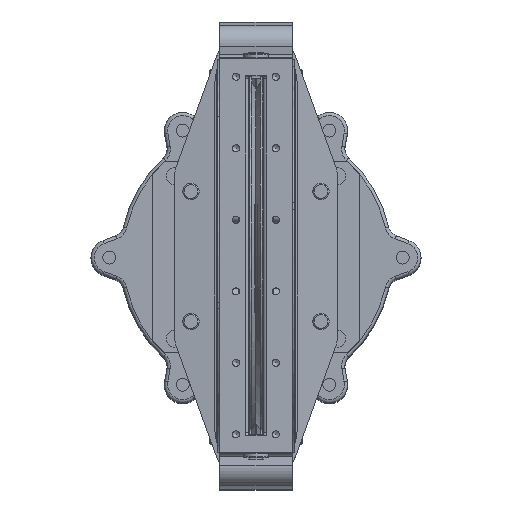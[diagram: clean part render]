
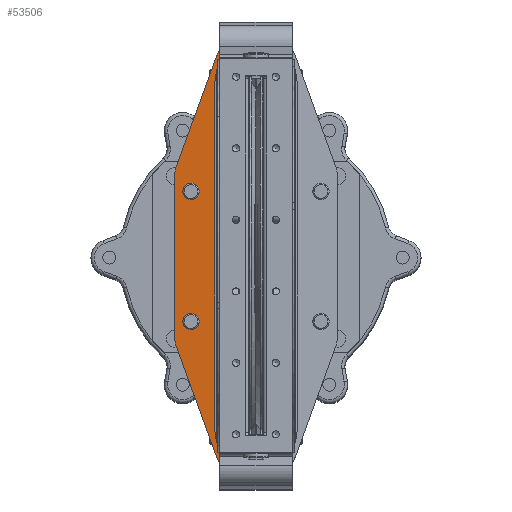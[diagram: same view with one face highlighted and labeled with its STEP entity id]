
A CAD part, top view. The second image highlights one B-rep face of the part: STEP entity #53506.
In plain terms, the highlighted planar face has unit normal (-0.07, 0, 0.998).
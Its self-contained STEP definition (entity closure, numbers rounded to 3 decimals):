
#854=B_SPLINE_CURVE_WITH_KNOTS('',3,(#89344,#89345,#89346,#89347,#89348,
#89349),.UNSPECIFIED.,.F.,.F.,(4,2,4),(-11.533,-11.508,
-11.478),.UNSPECIFIED.);
#855=B_SPLINE_CURVE_WITH_KNOTS('',3,(#89357,#89358,#89359,#89360,#89361,
#89362),.UNSPECIFIED.,.F.,.F.,(4,2,4),(27.716,27.741,
27.771),.UNSPECIFIED.);
#1640=ELLIPSE('',#56391,10.024,10.);
#1641=ELLIPSE('',#56392,10.024,10.);
#1644=ELLIPSE('',#56465,10.024,10.);
#1645=ELLIPSE('',#56466,10.024,10.);
#1652=ELLIPSE('',#58244,25.061,25.);
#1653=ELLIPSE('',#58247,25.061,25.);
#1658=ELLIPSE('',#58271,25.061,25.);
#1659=ELLIPSE('',#58274,25.061,25.);
#1660=ELLIPSE('',#58280,48.117,48.);
#1661=ELLIPSE('',#58281,48.117,48.);
#3087=FACE_BOUND('',#15275,.T.);
#3088=FACE_BOUND('',#15276,.T.);
#4527=LINE('',#88814,#7517);
#4528=LINE('',#88819,#7518);
#4553=LINE('',#88932,#7543);
#4595=LINE('',#89030,#7585);
#4597=LINE('',#89038,#7587);
#4600=LINE('',#89354,#7590);
#7517=VECTOR('',#68779,1.);
#7518=VECTOR('',#68784,1.);
#7543=VECTOR('',#68843,1.);
#7585=VECTOR('',#68939,1.);
#7587=VECTOR('',#68949,1.);
#7590=VECTOR('',#68960,1.);
#9862=PLANE('',#58279);
#11707=FACE_OUTER_BOUND('',#15274,.T.);
#15274=EDGE_LOOP('',(#41418,#41419,#41420,#41421,#41422,#41423,#41424,#41425,
#41426,#41427,#41428,#41429,#41430,#41431));
#15275=EDGE_LOOP('',(#41432,#41433));
#15276=EDGE_LOOP('',(#41434,#41435));
#22525=VERTEX_POINT('',#82713);
#22526=VERTEX_POINT('',#82715);
#22583=VERTEX_POINT('',#82949);
#22584=VERTEX_POINT('',#82951);
#24119=VERTEX_POINT('',#88811);
#24120=VERTEX_POINT('',#88813);
#24121=VERTEX_POINT('',#88817);
#24122=VERTEX_POINT('',#88818);
#24151=VERTEX_POINT('',#88925);
#24152=VERTEX_POINT('',#88927);
#24153=VERTEX_POINT('',#88931);
#24180=VERTEX_POINT('',#89022);
#24182=VERTEX_POINT('',#89028);
#24183=VERTEX_POINT('',#89032);
#24187=VERTEX_POINT('',#89198);
#24188=VERTEX_POINT('',#89351);
#24189=VERTEX_POINT('',#89353);
#24190=VERTEX_POINT('',#89355);
#28097=EDGE_CURVE('',#22526,#22525,#1640,.T.);
#28098=EDGE_CURVE('',#22525,#22526,#1641,.T.);
#28187=EDGE_CURVE('',#22584,#22583,#1644,.T.);
#28188=EDGE_CURVE('',#22583,#22584,#1645,.T.);
#30352=EDGE_CURVE('',#24120,#24119,#4527,.F.);
#30354=EDGE_CURVE('',#24121,#24122,#4528,.F.);
#30389=EDGE_CURVE('',#24152,#24151,#1652,.T.);
#30391=EDGE_CURVE('',#24151,#24153,#4553,.F.);
#30394=EDGE_CURVE('',#24153,#24120,#1653,.T.);
#30442=EDGE_CURVE('',#24122,#24180,#1658,.T.);
#30445=EDGE_CURVE('',#24180,#24182,#4595,.F.);
#30446=EDGE_CURVE('',#24182,#24183,#1659,.T.);
#30449=EDGE_CURVE('',#24152,#24183,#4597,.F.);
#30456=EDGE_CURVE('',#24119,#24187,#854,.F.);
#30457=EDGE_CURVE('',#24187,#24188,#1660,.T.);
#30458=EDGE_CURVE('',#24188,#24189,#4600,.T.);
#30459=EDGE_CURVE('',#24189,#24190,#1661,.T.);
#30460=EDGE_CURVE('',#24190,#24121,#855,.T.);
#41418=ORIENTED_EDGE('',*,*,#30352,.T.);
#41419=ORIENTED_EDGE('',*,*,#30456,.T.);
#41420=ORIENTED_EDGE('',*,*,#30457,.T.);
#41421=ORIENTED_EDGE('',*,*,#30458,.T.);
#41422=ORIENTED_EDGE('',*,*,#30459,.T.);
#41423=ORIENTED_EDGE('',*,*,#30460,.T.);
#41424=ORIENTED_EDGE('',*,*,#30354,.T.);
#41425=ORIENTED_EDGE('',*,*,#30442,.T.);
#41426=ORIENTED_EDGE('',*,*,#30445,.T.);
#41427=ORIENTED_EDGE('',*,*,#30446,.T.);
#41428=ORIENTED_EDGE('',*,*,#30449,.F.);
#41429=ORIENTED_EDGE('',*,*,#30389,.T.);
#41430=ORIENTED_EDGE('',*,*,#30391,.T.);
#41431=ORIENTED_EDGE('',*,*,#30394,.T.);
#41432=ORIENTED_EDGE('',*,*,#28097,.T.);
#41433=ORIENTED_EDGE('',*,*,#28098,.T.);
#41434=ORIENTED_EDGE('',*,*,#28187,.T.);
#41435=ORIENTED_EDGE('',*,*,#28188,.T.);
#53506=ADVANCED_FACE('',(#11707,#3087,#3088),#9862,.T.);
#56391=AXIS2_PLACEMENT_3D('',#82716,#64222,#64223);
#56392=AXIS2_PLACEMENT_3D('',#82717,#64224,#64225);
#56465=AXIS2_PLACEMENT_3D('',#82952,#64402,#64403);
#56466=AXIS2_PLACEMENT_3D('',#82953,#64404,#64405);
#58244=AXIS2_PLACEMENT_3D('',#88928,#68838,#68839);
#58247=AXIS2_PLACEMENT_3D('',#88937,#68848,#68849);
#58271=AXIS2_PLACEMENT_3D('',#89024,#68933,#68934);
#58274=AXIS2_PLACEMENT_3D('',#89033,#68942,#68943);
#58279=AXIS2_PLACEMENT_3D('',#89350,#68956,#68957);
#58280=AXIS2_PLACEMENT_3D('',#89352,#68958,#68959);
#58281=AXIS2_PLACEMENT_3D('',#89356,#68961,#68962);
#64222=DIRECTION('center_axis',(0.07,0.,-0.998));
#64223=DIRECTION('ref_axis',(0.998,0.,0.07));
#64224=DIRECTION('center_axis',(0.07,0.,-0.998));
#64225=DIRECTION('ref_axis',(0.998,0.,0.07));
#64402=DIRECTION('center_axis',(0.07,0.,-0.998));
#64403=DIRECTION('ref_axis',(0.998,0.,0.07));
#64404=DIRECTION('center_axis',(0.07,0.,-0.998));
#64405=DIRECTION('ref_axis',(0.998,0.,0.07));
#68779=DIRECTION('',(0.,-1.,0.));
#68784=DIRECTION('',(0.,-1.,0.));
#68838=DIRECTION('center_axis',(-0.07,0.,0.998));
#68839=DIRECTION('ref_axis',(0.998,0.,0.07));
#68843=DIRECTION('',(-0.342,0.939,-0.024));
#68848=DIRECTION('center_axis',(-0.07,0.,0.998));
#68849=DIRECTION('ref_axis',(-0.998,0.,-0.07));
#68933=DIRECTION('center_axis',(-0.07,0.,0.998));
#68934=DIRECTION('ref_axis',(0.998,0.,0.07));
#68939=DIRECTION('',(0.342,0.939,0.024));
#68942=DIRECTION('center_axis',(-0.07,0.,0.998));
#68943=DIRECTION('ref_axis',(-0.998,0.,-0.07));
#68949=DIRECTION('',(0.,-1.,0.));
#68956=DIRECTION('center_axis',(-0.07,0.,0.998));
#68957=DIRECTION('ref_axis',(0.998,0.,0.07));
#68958=DIRECTION('center_axis',(0.07,0.,-0.998));
#68959=DIRECTION('ref_axis',(0.998,0.,0.07));
#68960=DIRECTION('',(0.,1.,0.));
#68961=DIRECTION('center_axis',(0.07,0.,-0.998));
#68962=DIRECTION('ref_axis',(0.998,0.,0.07));
#82713=CARTESIAN_POINT('',(-85.61,-71.722,-314.494));
#82715=CARTESIAN_POINT('',(-90.,-80.,-314.801));
#82716=CARTESIAN_POINT('Origin',(-80.,-80.,-314.101));
#82717=CARTESIAN_POINT('Origin',(-80.,-80.,-314.101));
#82949=CARTESIAN_POINT('',(-85.61,88.278,-314.494));
#82951=CARTESIAN_POINT('',(-90.,80.,-314.801));
#82952=CARTESIAN_POINT('Origin',(-80.,80.,-314.101));
#82953=CARTESIAN_POINT('Origin',(-80.,80.,-314.101));
#88811=CARTESIAN_POINT('',(-28.497,-255.978,-310.5));
#88813=CARTESIAN_POINT('',(-28.497,-262.278,-310.5));
#88814=CARTESIAN_POINT('',(-28.497,-499637.5,-310.5));
#88817=CARTESIAN_POINT('',(-28.497,255.978,-310.5));
#88818=CARTESIAN_POINT('',(-28.497,262.278,-310.5));
#88819=CARTESIAN_POINT('',(-28.497,-499637.5,-310.5));
#88925=CARTESIAN_POINT('',(-98.492,-109.142,-315.395));
#88927=CARTESIAN_POINT('',(-100.,-100.592,-315.5));
#88928=CARTESIAN_POINT('Origin',(-75.,-100.592,-313.752));
#88931=CARTESIAN_POINT('',(-48.662,-246.051,-311.91));
#88932=CARTESIAN_POINT('',(160363.272,-440974.217,10905.185));
#88937=CARTESIAN_POINT('Origin',(-25.169,-237.5,-310.267));
#89022=CARTESIAN_POINT('',(-48.662,246.051,-311.91));
#89024=CARTESIAN_POINT('Origin',(-25.169,237.5,-310.267));
#89028=CARTESIAN_POINT('',(-98.492,109.142,-315.395));
#89030=CARTESIAN_POINT('',(-160613.925,-440903.386,-11539.727));
#89032=CARTESIAN_POINT('',(-100.,100.592,-315.5));
#89033=CARTESIAN_POINT('Origin',(-75.,100.592,-313.752));
#89038=CARTESIAN_POINT('',(-100.,-262.5,-315.5));
#89198=CARTESIAN_POINT('',(-28.349,-255.416,-310.49));
#89344=CARTESIAN_POINT('Ctrl Pts',(-28.349,-255.416,-310.49));
#89345=CARTESIAN_POINT('Ctrl Pts',(-28.394,-255.487,
-310.493));
#89346=CARTESIAN_POINT('Ctrl Pts',(-28.433,-255.579,
-310.496));
#89347=CARTESIAN_POINT('Ctrl Pts',(-28.483,-255.756,
-310.499));
#89348=CARTESIAN_POINT('Ctrl Pts',(-28.497,-255.877,-310.5));
#89349=CARTESIAN_POINT('Ctrl Pts',(-28.497,-255.978,
-310.5));
#89350=CARTESIAN_POINT('Origin',(-28.497,-499637.5,-310.5));
#89351=CARTESIAN_POINT('',(-50.454,-215.,-312.035));
#89352=CARTESIAN_POINT('Origin',(-2.454,-215.,-308.679));
#89353=CARTESIAN_POINT('',(-50.454,215.,-312.035));
#89354=CARTESIAN_POINT('',(-50.454,-499637.5,-312.035));
#89355=CARTESIAN_POINT('',(-28.349,255.416,-310.49));
#89356=CARTESIAN_POINT('Origin',(-2.454,215.,-308.679));
#89357=CARTESIAN_POINT('Ctrl Pts',(-28.349,255.416,-310.49));
#89358=CARTESIAN_POINT('Ctrl Pts',(-28.394,255.487,-310.493));
#89359=CARTESIAN_POINT('Ctrl Pts',(-28.433,255.579,-310.496));
#89360=CARTESIAN_POINT('Ctrl Pts',(-28.483,255.756,-310.499));
#89361=CARTESIAN_POINT('Ctrl Pts',(-28.497,255.877,-310.5));
#89362=CARTESIAN_POINT('Ctrl Pts',(-28.497,255.978,-310.5));
